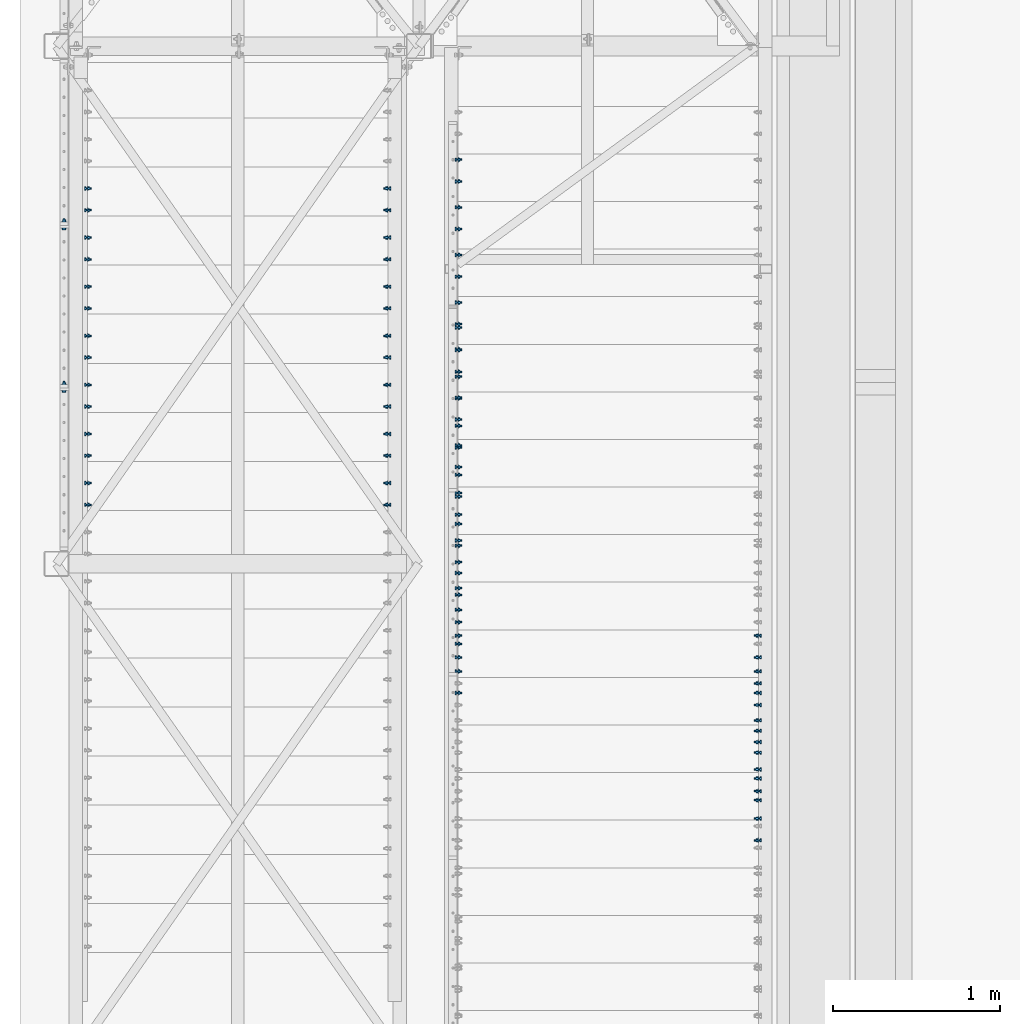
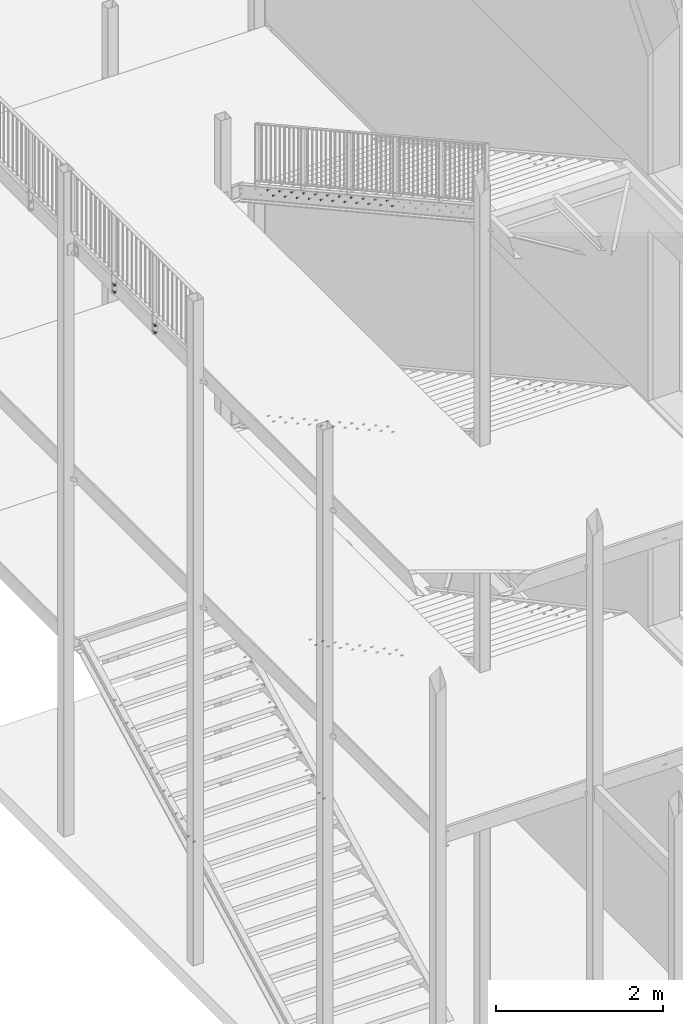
# One storey, part 70 of 78: 57 mechanical fasteners, 9 elements without a shape of their own.
"""IFC2X3 building model written with IfcOpenShell, lengths in millimetres."""

from ifc_helpers import new_model, si_unit, frame, origin_with_axes, origin_2d_with_axis, place, context, subcontext, project, spatial, polyline, circle, outline, extrude, source, transform, mapped, material, type_object, element, aggregate, save


model = new_model("IFC2X3")

# Units and contexts
model_context = context("Model", 3, precision=1e-05, world=origin_with_axes())
body_context = subcontext(model_context, "Body", "Model", "MODEL_VIEW")
ifc_project = project(units=[si_unit("LENGTHUNIT", "METRE", prefix="MILLI"), si_unit("AREAUNIT", "SQUARE_METRE"), si_unit("VOLUMEUNIT", "CUBIC_METRE"), si_unit("MASSUNIT", "GRAM", prefix="KILO"), si_unit("TIMEUNIT", "SECOND"), si_unit("PLANEANGLEUNIT", "RADIAN"), si_unit("SOLIDANGLEUNIT", "STERADIAN"), si_unit("THERMODYNAMICTEMPERATUREUNIT", "DEGREE_CELSIUS"), si_unit("LUMINOUSINTENSITYUNIT", "LUMEN")], contexts=[model_context])

# Site, building, storey
site_placement = place(None, origin_with_axes())
site = spatial("IfcSite", under=ifc_project, at=site_placement, Name="Site", CompositionType="ELEMENT")
building_placement = place(site_placement, origin_with_axes())
building = spatial("IfcBuilding", under=site, at=building_placement, Name="Undefined", CompositionType="ELEMENT")
storey_placement = place(building_placement, origin_with_axes())
storey = spatial("IfcBuildingStorey", under=building, at=storey_placement, Name="Undefined", CompositionType="ELEMENT", Elevation=0.0)

# Assembly, mechanical fasteners
assembly_1_placement = place(storey_placement, origin_with_axes())
assembly_1 = element("IfcElementAssembly", 1, at=assembly_1_placement, inside=storey, Name="MAIN_COURANTE", AssemblyPlace="NOTDEFINED", PredefinedType="RIGID_FRAME")
ifc_material_1 = material(Name="INOX-A4")
mechanical_fastener_type = type_object("IfcMechanicalFastenerType", Name="Bolt assembly")
shared_shape_1 = source(origin_with_axes(), body_context, "Body", "SweptSolid", [
    extrude(circle(Radius=7.0, at=origin_2d_with_axis()), frame((0.0, -7.4, 0.0), z_axis=(0.0, 1.0, 0.0), x_axis=(1.0, 0.0, 0.0)), (0.0, 0.0, 1.0), 15.0),
    extrude(circle(Radius=7.0, at=origin_2d_with_axis()), frame((0.0, 7.4, 0.0), z_axis=(0.0, 1.0, 0.0), x_axis=(1.0, 0.0, 0.0)), (0.0, 0.0, 1.0), 20.1),
    extrude(outline(polyline([(10.96965511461, 0.0), (5.484827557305, 9.50000000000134), (-5.484827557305, 9.50000000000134), (-10.96965511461, 0.0), (-5.484827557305, -9.50000000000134), (5.484827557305, -9.50000000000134), (10.96965511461, 0.0)])), frame((0.0, -18.7000000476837, 0.0), z_axis=(0.0, 1.0, 0.0), x_axis=(1.0, 0.0, 0.0)), (0.0, 0.0, 1.0), 8.0),
    extrude(circle(Radius=6.0, at=origin_2d_with_axis()), frame((0.0, -10.7000000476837, 0.0), z_axis=(0.0, 1.0, 0.0), x_axis=(1.0, 0.0, 0.0)), (0.0, 0.0, 1.0), 60.0),
    extrude(circle(Radius=15.5, at=origin_2d_with_axis()), frame((0.0, -10.7000000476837, 0.0), z_axis=(0.0, 1.0, 0.0), x_axis=(1.0, 0.0, 0.0)), (0.0, 0.0, 1.0), 3.2),
    extrude(circle(Radius=15.5, at=origin_2d_with_axis()), frame((0.0, 27.5, 0.0), z_axis=(0.0, 1.0, 0.0), x_axis=(1.0, 0.0, 0.0)), (0.0, 0.0, 1.0), 3.2),
    extrude(outline(polyline([(10.39230484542, 0.0), (5.19615242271, 9.00000000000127), (-5.19615242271, 9.00000000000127), (-10.39230484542, 0.0), (-5.19615242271, -9.00000000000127), (5.19615242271, -9.00000000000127), (10.39230484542, 0.0)])), frame((0.0, 30.7000000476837, 0.0), z_axis=(0.0, 1.0, 0.0), x_axis=(1.0, 0.0, 0.0)), (0.0, 0.0, 1.0), 10.8),
])
mechanical_fastener_1_placement = place(assembly_1_placement, frame((-35341.43, 8053.83333333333, 156585.04), z_axis=(0.0, 0.0, 1.0), x_axis=(1.0, 0.0, 0.0)))
mechanical_fastener_1 = element("IfcMechanicalFastener", 2, at=mechanical_fastener_1_placement, type_object=mechanical_fastener_type, material=ifc_material_1, Name="Bolt assembly", NominalDiameter=12.0, NominalLength=60.0, context=body_context, shape_type="MappedRepresentation", body=[
    mapped(shared_shape_1, transform((0.0, 0.0, -50.0))),
    mapped(shared_shape_1, transform((0.0, 0.0, 50.0))),
])
mechanical_fastener_2_placement = place(assembly_1_placement, frame((-35341.43, 9027.16666666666, 156585.04), z_axis=(0.0, 0.0, 1.0), x_axis=(1.0, 0.0, 0.0)))
mechanical_fastener_2 = element("IfcMechanicalFastener", 3, at=mechanical_fastener_2_placement, type_object=mechanical_fastener_type, material=ifc_material_1, Name="Bolt assembly", NominalDiameter=12.0, NominalLength=60.0, context=body_context, shape_type="MappedRepresentation", body=[
    mapped(shared_shape_1, transform((0.0, 0.0, -50.0))),
    mapped(shared_shape_1, transform((0.0, 0.0, 50.0))),
])
aggregate(assembly_1, [mechanical_fastener_1, mechanical_fastener_2])

assembly_2_placement = place(storey_placement, origin_with_axes())
assembly_2 = element("IfcElementAssembly", 4, at=assembly_2_placement, inside=storey, AssemblyPlace="NOTDEFINED", PredefinedType="RIGID_FRAME")
ifc_material_2 = material(Name="6.8")
shared_shape_2 = source(origin_with_axes(), body_context, "Body", "SweptSolid", [
    extrude(circle(Radius=6.0, at=origin_2d_with_axis()), frame((0.0, -9.00000002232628, 0.0), z_axis=(0.0, 1.0, 0.0), x_axis=(1.0, 0.0, 0.0)), (0.0, 0.0, 1.0), 9.1),
    extrude(outline(polyline([(10.96965511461, 0.0), (5.484827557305, 9.50000000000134), (-5.484827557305, 9.50000000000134), (-10.96965511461, 0.0), (-5.484827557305, -9.50000000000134), (5.484827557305, -9.50000000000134), (10.96965511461, 0.0)])), frame((0.0, -17.0000000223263, 0.0), z_axis=(0.0, 1.0, 0.0), x_axis=(1.0, 0.0, 0.0)), (0.0, 0.0, 1.0), 8.0),
    extrude(circle(Radius=6.0, at=origin_2d_with_axis()), frame((0.0, -9.00000002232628, 0.0), z_axis=(0.0, 1.0, 0.0), x_axis=(1.0, 0.0, 0.0)), (0.0, 0.0, 1.0), 35.0),
    extrude(circle(Radius=15.5, at=origin_2d_with_axis()), frame((0.0, 0.0, 0.0), z_axis=(0.0, 1.0, 0.0), x_axis=(1.0, 0.0, 0.0)), (0.0, 0.0, 1.0), 3.2),
    extrude(outline(polyline([(10.39230484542, 0.0), (5.19615242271, 9.00000000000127), (-5.19615242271, 9.00000000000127), (-10.39230484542, 0.0), (-5.19615242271, -9.00000000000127), (5.19615242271, -9.00000000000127), (10.39230484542, 0.0)])), frame((0.0, 3.20000004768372, 0.0), z_axis=(0.0, 1.0, 0.0), x_axis=(1.0, 0.0, 0.0)), (0.0, 0.0, 1.0), 10.8),
])
mechanical_fastener_3_placement = place(assembly_2_placement, frame((-31182.8599999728, 5722.99999993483, 155700.040000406), z_axis=(0.0, 0.0, -1.0), x_axis=(0.0, -1.0, 0.0)))
mechanical_fastener_3 = element("IfcMechanicalFastener", 5, at=mechanical_fastener_3_placement, type_object=mechanical_fastener_type, material=ifc_material_2, Name="Bolt assembly", NominalDiameter=12.0, NominalLength=35.0, context=body_context, shape_type="MappedRepresentation", body=[
    mapped(shared_shape_2, transform((0.0, 0.0, 0.0))),
    mapped(shared_shape_2, transform((130.0, 0.0, 0.0))),
])
mechanical_fastener_4_placement = place(assembly_2_placement, frame((-31182.8599999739, 6007.99999993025, 155542.540000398), z_axis=(0.0, 0.0, -1.0), x_axis=(0.0, -1.0, 0.0)))
mechanical_fastener_4 = element("IfcMechanicalFastener", 6, at=mechanical_fastener_4_placement, type_object=mechanical_fastener_type, material=ifc_material_2, Name="Bolt assembly", NominalDiameter=12.0, NominalLength=35.0, context=body_context, shape_type="MappedRepresentation", body=[
    mapped(shared_shape_2, transform((0.0, 0.0, 0.0))),
    mapped(shared_shape_2, transform((130.0, 0.0, 0.0))),
])
mechanical_fastener_5_placement = place(assembly_2_placement, frame((-31182.8599999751, 6292.99999992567, 155385.040000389), z_axis=(0.0, 0.0, -1.0), x_axis=(0.0, -1.0, 0.0)))
mechanical_fastener_5 = element("IfcMechanicalFastener", 7, at=mechanical_fastener_5_placement, type_object=mechanical_fastener_type, material=ifc_material_2, Name="Bolt assembly", NominalDiameter=12.0, NominalLength=35.0, context=body_context, shape_type="MappedRepresentation", body=[
    mapped(shared_shape_2, transform((0.0, 0.0, 0.0))),
    mapped(shared_shape_2, transform((130.0, 0.0, 0.0))),
])
mechanical_fastener_6_placement = place(assembly_2_placement, frame((-31182.8599999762, 6577.99999992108, 155227.540000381), z_axis=(0.0, 0.0, -1.0), x_axis=(0.0, -1.0, 0.0)))
mechanical_fastener_6 = element("IfcMechanicalFastener", 8, at=mechanical_fastener_6_placement, type_object=mechanical_fastener_type, material=ifc_material_2, Name="Bolt assembly", NominalDiameter=12.0, NominalLength=35.0, context=body_context, shape_type="MappedRepresentation", body=[
    mapped(shared_shape_2, transform((0.0, 0.0, 0.0))),
    mapped(shared_shape_2, transform((130.0, 0.0, 0.0))),
])
aggregate(assembly_2, [mechanical_fastener_3, mechanical_fastener_4, mechanical_fastener_5, mechanical_fastener_6])

assembly_3_placement = place(storey_placement, origin_with_axes())
assembly_3 = element("IfcElementAssembly", 9, at=assembly_3_placement, inside=storey, AssemblyPlace="NOTDEFINED", PredefinedType="RIGID_FRAME")
mechanical_fastener_7_placement = place(assembly_3_placement, frame((-32982.8599999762, 6577.99999992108, 155227.540000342), z_axis=(0.0, 0.0, 1.0), x_axis=(0.0, -1.0, 0.0)))
mechanical_fastener_7 = element("IfcMechanicalFastener", 10, at=mechanical_fastener_7_placement, type_object=mechanical_fastener_type, material=ifc_material_2, Name="Bolt assembly", NominalDiameter=12.0, NominalLength=35.0, context=body_context, shape_type="MappedRepresentation", body=[
    mapped(shared_shape_2, transform((0.0, 0.0, 0.0))),
    mapped(shared_shape_2, transform((130.0, 0.0, 0.0))),
])
mechanical_fastener_8_placement = place(assembly_3_placement, frame((-32982.8599999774, 6862.9999999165, 155070.040000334), z_axis=(0.0, 0.0, 1.0), x_axis=(0.0, -1.0, 0.0)))
mechanical_fastener_8 = element("IfcMechanicalFastener", 11, at=mechanical_fastener_8_placement, type_object=mechanical_fastener_type, material=ifc_material_2, Name="Bolt assembly", NominalDiameter=12.0, NominalLength=35.0, context=body_context, shape_type="MappedRepresentation", body=[
    mapped(shared_shape_2, transform((0.0, 0.0, 0.0))),
    mapped(shared_shape_2, transform((130.0, 0.0, 0.0))),
])
mechanical_fastener_9_placement = place(assembly_3_placement, frame((-32982.8599999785, 7147.99999991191, 154912.540000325), z_axis=(0.0, 0.0, 1.0), x_axis=(0.0, -1.0, 0.0)))
mechanical_fastener_9 = element("IfcMechanicalFastener", 12, at=mechanical_fastener_9_placement, type_object=mechanical_fastener_type, material=ifc_material_2, Name="Bolt assembly", NominalDiameter=12.0, NominalLength=35.0, context=body_context, shape_type="MappedRepresentation", body=[
    mapped(shared_shape_2, transform((0.0, 0.0, 0.0))),
    mapped(shared_shape_2, transform((130.0, 0.0, 0.0))),
])
mechanical_fastener_10_placement = place(assembly_3_placement, frame((-32982.8599999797, 7432.99999990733, 154755.040000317), z_axis=(0.0, 0.0, 1.0), x_axis=(0.0, -1.0, 0.0)))
mechanical_fastener_10 = element("IfcMechanicalFastener", 13, at=mechanical_fastener_10_placement, type_object=mechanical_fastener_type, material=ifc_material_2, Name="Bolt assembly", NominalDiameter=12.0, NominalLength=35.0, context=body_context, shape_type="MappedRepresentation", body=[
    mapped(shared_shape_2, transform((0.0, 0.0, 0.0))),
    mapped(shared_shape_2, transform((130.0, 0.0, 0.0))),
])
mechanical_fastener_11_placement = place(assembly_3_placement, frame((-32982.8599999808, 7717.99999990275, 154597.540000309), z_axis=(0.0, 0.0, 1.0), x_axis=(0.0, -1.0, 0.0)))
mechanical_fastener_11 = element("IfcMechanicalFastener", 14, at=mechanical_fastener_11_placement, type_object=mechanical_fastener_type, material=ifc_material_2, Name="Bolt assembly", NominalDiameter=12.0, NominalLength=35.0, context=body_context, shape_type="MappedRepresentation", body=[
    mapped(shared_shape_2, transform((0.0, 0.0, 0.0))),
    mapped(shared_shape_2, transform((130.0, 0.0, 0.0))),
])
mechanical_fastener_12_placement = place(assembly_3_placement, frame((-32982.859999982, 8002.99999989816, 154440.0400003), z_axis=(0.0, 0.0, 1.0), x_axis=(0.0, -1.0, 0.0)))
mechanical_fastener_12 = element("IfcMechanicalFastener", 15, at=mechanical_fastener_12_placement, type_object=mechanical_fastener_type, material=ifc_material_2, Name="Bolt assembly", NominalDiameter=12.0, NominalLength=35.0, context=body_context, shape_type="MappedRepresentation", body=[
    mapped(shared_shape_2, transform((0.0, 0.0, 0.0))),
    mapped(shared_shape_2, transform((130.0, 0.0, 0.0))),
])
mechanical_fastener_13_placement = place(assembly_3_placement, frame((-32982.8599999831, 8287.99999989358, 154282.540000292), z_axis=(0.0, 0.0, 1.0), x_axis=(0.0, -1.0, 0.0)))
mechanical_fastener_13 = element("IfcMechanicalFastener", 16, at=mechanical_fastener_13_placement, type_object=mechanical_fastener_type, material=ifc_material_2, Name="Bolt assembly", NominalDiameter=12.0, NominalLength=35.0, context=body_context, shape_type="MappedRepresentation", body=[
    mapped(shared_shape_2, transform((0.0, 0.0, 0.0))),
    mapped(shared_shape_2, transform((130.0, 0.0, 0.0))),
])
mechanical_fastener_14_placement = place(assembly_3_placement, frame((-32982.8599999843, 8572.99999988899, 154125.040000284), z_axis=(0.0, 0.0, 1.0), x_axis=(0.0, -1.0, 0.0)))
mechanical_fastener_14 = element("IfcMechanicalFastener", 17, at=mechanical_fastener_14_placement, type_object=mechanical_fastener_type, material=ifc_material_2, Name="Bolt assembly", NominalDiameter=12.0, NominalLength=35.0, context=body_context, shape_type="MappedRepresentation", body=[
    mapped(shared_shape_2, transform((0.0, 0.0, 0.0))),
    mapped(shared_shape_2, transform((130.0, 0.0, 0.0))),
])
mechanical_fastener_15_placement = place(assembly_3_placement, frame((-32982.8599999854, 8857.99999988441, 153967.540000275), z_axis=(0.0, 0.0, 1.0), x_axis=(0.0, -1.0, 0.0)))
mechanical_fastener_15 = element("IfcMechanicalFastener", 18, at=mechanical_fastener_15_placement, type_object=mechanical_fastener_type, material=ifc_material_2, Name="Bolt assembly", NominalDiameter=12.0, NominalLength=35.0, context=body_context, shape_type="MappedRepresentation", body=[
    mapped(shared_shape_2, transform((0.0, 0.0, 0.0))),
    mapped(shared_shape_2, transform((130.0, 0.0, 0.0))),
])
mechanical_fastener_16_placement = place(assembly_3_placement, frame((-32982.8599999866, 9142.99999987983, 153810.040000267), z_axis=(0.0, 0.0, 1.0), x_axis=(0.0, -1.0, 0.0)))
mechanical_fastener_16 = element("IfcMechanicalFastener", 19, at=mechanical_fastener_16_placement, type_object=mechanical_fastener_type, material=ifc_material_2, Name="Bolt assembly", NominalDiameter=12.0, NominalLength=35.0, context=body_context, shape_type="MappedRepresentation", body=[
    mapped(shared_shape_2, transform((0.0, 0.0, 0.0))),
    mapped(shared_shape_2, transform((130.0, 0.0, 0.0))),
])
mechanical_fastener_17_placement = place(assembly_3_placement, frame((-32982.8599999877, 9427.99999987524, 153652.540000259), z_axis=(0.0, 0.0, 1.0), x_axis=(0.0, -1.0, 0.0)))
mechanical_fastener_17 = element("IfcMechanicalFastener", 20, at=mechanical_fastener_17_placement, type_object=mechanical_fastener_type, material=ifc_material_2, Name="Bolt assembly", NominalDiameter=12.0, NominalLength=35.0, context=body_context, shape_type="MappedRepresentation", body=[
    mapped(shared_shape_2, transform((0.0, 0.0, 0.0))),
    mapped(shared_shape_2, transform((130.0, 0.0, 0.0))),
])
aggregate(assembly_3, [mechanical_fastener_7, mechanical_fastener_8, mechanical_fastener_9, mechanical_fastener_10, mechanical_fastener_11, mechanical_fastener_12, mechanical_fastener_13, mechanical_fastener_14, mechanical_fastener_15, mechanical_fastener_16, mechanical_fastener_17])

assembly_4_placement = place(storey_placement, origin_with_axes())
assembly_4 = element("IfcElementAssembly", 21, at=assembly_4_placement, inside=storey, AssemblyPlace="NOTDEFINED", PredefinedType="RIGID_FRAME")
mechanical_fastener_18_placement = place(assembly_4_placement, frame((-31182.8599999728, 5722.99999993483, 159000.040000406), z_axis=(0.0, 0.0, -1.0), x_axis=(0.0, -1.0, 0.0)))
mechanical_fastener_18 = element("IfcMechanicalFastener", 22, at=mechanical_fastener_18_placement, type_object=mechanical_fastener_type, material=ifc_material_2, Name="Bolt assembly", NominalDiameter=12.0, NominalLength=35.0, context=body_context, shape_type="MappedRepresentation", body=[
    mapped(shared_shape_2, transform((0.0, 0.0, 0.0))),
    mapped(shared_shape_2, transform((130.0, 0.0, 0.0))),
])
mechanical_fastener_19_placement = place(assembly_4_placement, frame((-31182.8599999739, 6007.99999993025, 158842.540000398), z_axis=(0.0, 0.0, -1.0), x_axis=(0.0, -1.0, 0.0)))
mechanical_fastener_19 = element("IfcMechanicalFastener", 23, at=mechanical_fastener_19_placement, type_object=mechanical_fastener_type, material=ifc_material_2, Name="Bolt assembly", NominalDiameter=12.0, NominalLength=35.0, context=body_context, shape_type="MappedRepresentation", body=[
    mapped(shared_shape_2, transform((0.0, 0.0, 0.0))),
    mapped(shared_shape_2, transform((130.0, 0.0, 0.0))),
])
mechanical_fastener_20_placement = place(assembly_4_placement, frame((-31182.8599999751, 6292.99999992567, 158685.040000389), z_axis=(0.0, 0.0, -1.0), x_axis=(0.0, -1.0, 0.0)))
mechanical_fastener_20 = element("IfcMechanicalFastener", 24, at=mechanical_fastener_20_placement, type_object=mechanical_fastener_type, material=ifc_material_2, Name="Bolt assembly", NominalDiameter=12.0, NominalLength=35.0, context=body_context, shape_type="MappedRepresentation", body=[
    mapped(shared_shape_2, transform((0.0, 0.0, 0.0))),
    mapped(shared_shape_2, transform((130.0, 0.0, 0.0))),
])
aggregate(assembly_4, [mechanical_fastener_18, mechanical_fastener_19, mechanical_fastener_20])

assembly_5_placement = place(storey_placement, origin_with_axes())
assembly_5 = element("IfcElementAssembly", 25, at=assembly_5_placement, inside=storey, AssemblyPlace="NOTDEFINED", PredefinedType="RIGID_FRAME")
mechanical_fastener_21_placement = place(assembly_5_placement, frame((-32982.8599999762, 6577.99999992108, 158527.540000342), z_axis=(0.0, 0.0, 1.0), x_axis=(0.0, -1.0, 0.0)))
mechanical_fastener_21 = element("IfcMechanicalFastener", 26, at=mechanical_fastener_21_placement, type_object=mechanical_fastener_type, material=ifc_material_2, Name="Bolt assembly", NominalDiameter=12.0, NominalLength=35.0, context=body_context, shape_type="MappedRepresentation", body=[
    mapped(shared_shape_2, transform((0.0, 0.0, 0.0))),
    mapped(shared_shape_2, transform((130.0, 0.0, 0.0))),
])
mechanical_fastener_22_placement = place(assembly_5_placement, frame((-32982.8599999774, 6862.9999999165, 158370.040000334), z_axis=(0.0, 0.0, 1.0), x_axis=(0.0, -1.0, 0.0)))
mechanical_fastener_22 = element("IfcMechanicalFastener", 27, at=mechanical_fastener_22_placement, type_object=mechanical_fastener_type, material=ifc_material_2, Name="Bolt assembly", NominalDiameter=12.0, NominalLength=35.0, context=body_context, shape_type="MappedRepresentation", body=[
    mapped(shared_shape_2, transform((0.0, 0.0, 0.0))),
    mapped(shared_shape_2, transform((130.0, 0.0, 0.0))),
])
mechanical_fastener_23_placement = place(assembly_5_placement, frame((-32982.8599999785, 7147.99999991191, 158212.540000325), z_axis=(0.0, 0.0, 1.0), x_axis=(0.0, -1.0, 0.0)))
mechanical_fastener_23 = element("IfcMechanicalFastener", 28, at=mechanical_fastener_23_placement, type_object=mechanical_fastener_type, material=ifc_material_2, Name="Bolt assembly", NominalDiameter=12.0, NominalLength=35.0, context=body_context, shape_type="MappedRepresentation", body=[
    mapped(shared_shape_2, transform((0.0, 0.0, 0.0))),
    mapped(shared_shape_2, transform((130.0, 0.0, 0.0))),
])
mechanical_fastener_24_placement = place(assembly_5_placement, frame((-32982.8599999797, 7432.99999990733, 158055.040000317), z_axis=(0.0, 0.0, 1.0), x_axis=(0.0, -1.0, 0.0)))
mechanical_fastener_24 = element("IfcMechanicalFastener", 29, at=mechanical_fastener_24_placement, type_object=mechanical_fastener_type, material=ifc_material_2, Name="Bolt assembly", NominalDiameter=12.0, NominalLength=35.0, context=body_context, shape_type="MappedRepresentation", body=[
    mapped(shared_shape_2, transform((0.0, 0.0, 0.0))),
    mapped(shared_shape_2, transform((130.0, 0.0, 0.0))),
])
mechanical_fastener_25_placement = place(assembly_5_placement, frame((-32982.8599999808, 7717.99999990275, 157897.540000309), z_axis=(0.0, 0.0, 1.0), x_axis=(0.0, -1.0, 0.0)))
mechanical_fastener_25 = element("IfcMechanicalFastener", 30, at=mechanical_fastener_25_placement, type_object=mechanical_fastener_type, material=ifc_material_2, Name="Bolt assembly", NominalDiameter=12.0, NominalLength=35.0, context=body_context, shape_type="MappedRepresentation", body=[
    mapped(shared_shape_2, transform((0.0, 0.0, 0.0))),
    mapped(shared_shape_2, transform((130.0, 0.0, 0.0))),
])
mechanical_fastener_26_placement = place(assembly_5_placement, frame((-32982.859999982, 8002.99999989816, 157740.0400003), z_axis=(0.0, 0.0, 1.0), x_axis=(0.0, -1.0, 0.0)))
mechanical_fastener_26 = element("IfcMechanicalFastener", 31, at=mechanical_fastener_26_placement, type_object=mechanical_fastener_type, material=ifc_material_2, Name="Bolt assembly", NominalDiameter=12.0, NominalLength=35.0, context=body_context, shape_type="MappedRepresentation", body=[
    mapped(shared_shape_2, transform((0.0, 0.0, 0.0))),
    mapped(shared_shape_2, transform((130.0, 0.0, 0.0))),
])
mechanical_fastener_27_placement = place(assembly_5_placement, frame((-32982.8599999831, 8287.99999989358, 157582.540000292), z_axis=(0.0, 0.0, 1.0), x_axis=(0.0, -1.0, 0.0)))
mechanical_fastener_27 = element("IfcMechanicalFastener", 32, at=mechanical_fastener_27_placement, type_object=mechanical_fastener_type, material=ifc_material_2, Name="Bolt assembly", NominalDiameter=12.0, NominalLength=35.0, context=body_context, shape_type="MappedRepresentation", body=[
    mapped(shared_shape_2, transform((0.0, 0.0, 0.0))),
    mapped(shared_shape_2, transform((130.0, 0.0, 0.0))),
])
mechanical_fastener_28_placement = place(assembly_5_placement, frame((-32982.8599999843, 8572.99999988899, 157425.040000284), z_axis=(0.0, 0.0, 1.0), x_axis=(0.0, -1.0, 0.0)))
mechanical_fastener_28 = element("IfcMechanicalFastener", 33, at=mechanical_fastener_28_placement, type_object=mechanical_fastener_type, material=ifc_material_2, Name="Bolt assembly", NominalDiameter=12.0, NominalLength=35.0, context=body_context, shape_type="MappedRepresentation", body=[
    mapped(shared_shape_2, transform((0.0, 0.0, 0.0))),
    mapped(shared_shape_2, transform((130.0, 0.0, 0.0))),
])
mechanical_fastener_29_placement = place(assembly_5_placement, frame((-32982.8599999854, 8857.99999988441, 157267.540000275), z_axis=(0.0, 0.0, 1.0), x_axis=(0.0, -1.0, 0.0)))
mechanical_fastener_29 = element("IfcMechanicalFastener", 34, at=mechanical_fastener_29_placement, type_object=mechanical_fastener_type, material=ifc_material_2, Name="Bolt assembly", NominalDiameter=12.0, NominalLength=35.0, context=body_context, shape_type="MappedRepresentation", body=[
    mapped(shared_shape_2, transform((0.0, 0.0, 0.0))),
    mapped(shared_shape_2, transform((130.0, 0.0, 0.0))),
])
mechanical_fastener_30_placement = place(assembly_5_placement, frame((-32982.8599999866, 9142.99999987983, 157110.040000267), z_axis=(0.0, 0.0, 1.0), x_axis=(0.0, -1.0, 0.0)))
mechanical_fastener_30 = element("IfcMechanicalFastener", 35, at=mechanical_fastener_30_placement, type_object=mechanical_fastener_type, material=ifc_material_2, Name="Bolt assembly", NominalDiameter=12.0, NominalLength=35.0, context=body_context, shape_type="MappedRepresentation", body=[
    mapped(shared_shape_2, transform((0.0, 0.0, 0.0))),
    mapped(shared_shape_2, transform((130.0, 0.0, 0.0))),
])
mechanical_fastener_31_placement = place(assembly_5_placement, frame((-32982.8599999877, 9427.99999987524, 156952.540000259), z_axis=(0.0, 0.0, 1.0), x_axis=(0.0, -1.0, 0.0)))
mechanical_fastener_31 = element("IfcMechanicalFastener", 36, at=mechanical_fastener_31_placement, type_object=mechanical_fastener_type, material=ifc_material_2, Name="Bolt assembly", NominalDiameter=12.0, NominalLength=35.0, context=body_context, shape_type="MappedRepresentation", body=[
    mapped(shared_shape_2, transform((0.0, 0.0, 0.0))),
    mapped(shared_shape_2, transform((130.0, 0.0, 0.0))),
])
aggregate(assembly_5, [mechanical_fastener_21, mechanical_fastener_22, mechanical_fastener_23, mechanical_fastener_24, mechanical_fastener_25, mechanical_fastener_26, mechanical_fastener_27, mechanical_fastener_28, mechanical_fastener_29, mechanical_fastener_30, mechanical_fastener_31])

# Assembly, mechanical fastener
assembly_6_placement = place(storey_placement, origin_with_axes())
assembly_6 = element("IfcElementAssembly", 37, at=assembly_6_placement, inside=storey, AssemblyPlace="NOTDEFINED", PredefinedType="RIGID_FRAME")
mechanical_fastener_32_placement = place(assembly_6_placement, frame((-35201.4300000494, 9126.00000000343, 150386.039999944), z_axis=(0.0, 0.0, -1.0), x_axis=(0.0, 1.0, 0.0)))
mechanical_fastener_32 = element("IfcMechanicalFastener", 38, at=mechanical_fastener_32_placement, type_object=mechanical_fastener_type, material=ifc_material_2, Name="Bolt assembly", NominalDiameter=12.0, NominalLength=35.0, context=body_context, shape_type="MappedRepresentation", body=[
    mapped(shared_shape_2, transform((0.0, 0.0, 0.0))),
    mapped(shared_shape_2, transform((130.0, 0.0, 0.0))),
])

assembly_7_placement = place(storey_placement, origin_with_axes())
assembly_7 = element("IfcElementAssembly", 39, at=assembly_7_placement, inside=storey, AssemblyPlace="NOTDEFINED", PredefinedType="RIGID_FRAME")
mechanical_fastener_33_placement = place(assembly_7_placement, frame((-33401.430000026, 9126.00000000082, 150386.040000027), z_axis=(0.0, 0.0, 1.0), x_axis=(0.0, 1.0, 0.0)))
mechanical_fastener_33 = element("IfcMechanicalFastener", 40, at=mechanical_fastener_33_placement, type_object=mechanical_fastener_type, material=ifc_material_2, Name="Bolt assembly", NominalDiameter=12.0, NominalLength=35.0, context=body_context, shape_type="MappedRepresentation", body=[
    mapped(shared_shape_2, transform((0.0, 0.0, 0.0))),
    mapped(shared_shape_2, transform((130.0, 0.0, 0.0))),
])

# Mechanical fastener
mechanical_fastener_34_placement = place(assembly_6_placement, frame((-35201.4300000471, 8832.00000000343, 150233.039999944), z_axis=(0.0, 0.0, -1.0), x_axis=(0.0, 1.0, 0.0)))
mechanical_fastener_34 = element("IfcMechanicalFastener", 41, at=mechanical_fastener_34_placement, type_object=mechanical_fastener_type, material=ifc_material_2, Name="Bolt assembly", NominalDiameter=12.0, NominalLength=35.0, context=body_context, shape_type="MappedRepresentation", body=[
    mapped(shared_shape_2, transform((0.0, 0.0, 0.0))),
    mapped(shared_shape_2, transform((130.0, 0.0, 0.0))),
])

mechanical_fastener_35_placement = place(assembly_7_placement, frame((-33401.4300000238, 8832.00000000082, 150233.040000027), z_axis=(0.0, 0.0, 1.0), x_axis=(0.0, 1.0, 0.0)))
mechanical_fastener_35 = element("IfcMechanicalFastener", 42, at=mechanical_fastener_35_placement, type_object=mechanical_fastener_type, material=ifc_material_2, Name="Bolt assembly", NominalDiameter=12.0, NominalLength=35.0, context=body_context, shape_type="MappedRepresentation", body=[
    mapped(shared_shape_2, transform((0.0, 0.0, 0.0))),
    mapped(shared_shape_2, transform((130.0, 0.0, 0.0))),
])

mechanical_fastener_36_placement = place(assembly_6_placement, frame((-35201.4300000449, 8538.00000000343, 150080.039999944), z_axis=(0.0, 0.0, -1.0), x_axis=(0.0, 1.0, 0.0)))
mechanical_fastener_36 = element("IfcMechanicalFastener", 43, at=mechanical_fastener_36_placement, type_object=mechanical_fastener_type, material=ifc_material_2, Name="Bolt assembly", NominalDiameter=12.0, NominalLength=35.0, context=body_context, shape_type="MappedRepresentation", body=[
    mapped(shared_shape_2, transform((0.0, 0.0, 0.0))),
    mapped(shared_shape_2, transform((130.0, 0.0, 0.0))),
])

mechanical_fastener_37_placement = place(assembly_7_placement, frame((-33401.4300000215, 8538.00000000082, 150080.040000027), z_axis=(0.0, 0.0, 1.0), x_axis=(0.0, 1.0, 0.0)))
mechanical_fastener_37 = element("IfcMechanicalFastener", 44, at=mechanical_fastener_37_placement, type_object=mechanical_fastener_type, material=ifc_material_2, Name="Bolt assembly", NominalDiameter=12.0, NominalLength=35.0, context=body_context, shape_type="MappedRepresentation", body=[
    mapped(shared_shape_2, transform((0.0, 0.0, 0.0))),
    mapped(shared_shape_2, transform((130.0, 0.0, 0.0))),
])

mechanical_fastener_38_placement = place(assembly_6_placement, frame((-35201.4300000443, 8244.00000000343, 149927.039999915), z_axis=(0.0, 0.0, -1.0), x_axis=(0.0, 1.0, 0.0)))
mechanical_fastener_38 = element("IfcMechanicalFastener", 45, at=mechanical_fastener_38_placement, type_object=mechanical_fastener_type, material=ifc_material_2, Name="Bolt assembly", NominalDiameter=12.0, NominalLength=35.0, context=body_context, shape_type="MappedRepresentation", body=[
    mapped(shared_shape_2, transform((0.0, 0.0, 0.0))),
    mapped(shared_shape_2, transform((130.0, 0.0, 0.0))),
])

mechanical_fastener_39_placement = place(assembly_7_placement, frame((-33401.4300000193, 8244.00000000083, 149927.040000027), z_axis=(0.0, 0.0, 1.0), x_axis=(0.0, 1.0, 0.0)))
mechanical_fastener_39 = element("IfcMechanicalFastener", 46, at=mechanical_fastener_39_placement, type_object=mechanical_fastener_type, material=ifc_material_2, Name="Bolt assembly", NominalDiameter=12.0, NominalLength=35.0, context=body_context, shape_type="MappedRepresentation", body=[
    mapped(shared_shape_2, transform((0.0, 0.0, 0.0))),
    mapped(shared_shape_2, transform((130.0, 0.0, 0.0))),
])

mechanical_fastener_40_placement = place(assembly_6_placement, frame((-35201.4300000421, 7950.00000000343, 149774.039999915), z_axis=(0.0, 0.0, -1.0), x_axis=(0.0, 1.0, 0.0)))
mechanical_fastener_40 = element("IfcMechanicalFastener", 47, at=mechanical_fastener_40_placement, type_object=mechanical_fastener_type, material=ifc_material_2, Name="Bolt assembly", NominalDiameter=12.0, NominalLength=35.0, context=body_context, shape_type="MappedRepresentation", body=[
    mapped(shared_shape_2, transform((0.0, 0.0, 0.0))),
    mapped(shared_shape_2, transform((130.0, 0.0, 0.0))),
])

mechanical_fastener_41_placement = place(assembly_7_placement, frame((-33401.4300000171, 7950.00000000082, 149774.040000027), z_axis=(0.0, 0.0, 1.0), x_axis=(0.0, 1.0, 0.0)))
mechanical_fastener_41 = element("IfcMechanicalFastener", 48, at=mechanical_fastener_41_placement, type_object=mechanical_fastener_type, material=ifc_material_2, Name="Bolt assembly", NominalDiameter=12.0, NominalLength=35.0, context=body_context, shape_type="MappedRepresentation", body=[
    mapped(shared_shape_2, transform((0.0, 0.0, 0.0))),
    mapped(shared_shape_2, transform((130.0, 0.0, 0.0))),
])

mechanical_fastener_42_placement = place(assembly_6_placement, frame((-35201.4300000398, 7656.00000000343, 149621.039999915), z_axis=(0.0, 0.0, -1.0), x_axis=(0.0, 1.0, 0.0)))
mechanical_fastener_42 = element("IfcMechanicalFastener", 49, at=mechanical_fastener_42_placement, type_object=mechanical_fastener_type, material=ifc_material_2, Name="Bolt assembly", NominalDiameter=12.0, NominalLength=35.0, context=body_context, shape_type="MappedRepresentation", body=[
    mapped(shared_shape_2, transform((0.0, 0.0, 0.0))),
    mapped(shared_shape_2, transform((130.0, 0.0, 0.0))),
])

mechanical_fastener_43_placement = place(assembly_7_placement, frame((-33401.4300000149, 7656.00000000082, 149621.040000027), z_axis=(0.0, 0.0, 1.0), x_axis=(0.0, 1.0, 0.0)))
mechanical_fastener_43 = element("IfcMechanicalFastener", 50, at=mechanical_fastener_43_placement, type_object=mechanical_fastener_type, material=ifc_material_2, Name="Bolt assembly", NominalDiameter=12.0, NominalLength=35.0, context=body_context, shape_type="MappedRepresentation", body=[
    mapped(shared_shape_2, transform((0.0, 0.0, 0.0))),
    mapped(shared_shape_2, transform((130.0, 0.0, 0.0))),
])

mechanical_fastener_44_placement = place(assembly_6_placement, frame((-35201.4300000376, 7362.00000000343, 149468.039999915), z_axis=(0.0, 0.0, -1.0), x_axis=(0.0, 1.0, 0.0)))
mechanical_fastener_44 = element("IfcMechanicalFastener", 51, at=mechanical_fastener_44_placement, type_object=mechanical_fastener_type, material=ifc_material_2, Name="Bolt assembly", NominalDiameter=12.0, NominalLength=35.0, context=body_context, shape_type="MappedRepresentation", body=[
    mapped(shared_shape_2, transform((0.0, 0.0, 0.0))),
    mapped(shared_shape_2, transform((130.0, 0.0, 0.0))),
])

aggregate(assembly_6, [mechanical_fastener_32, mechanical_fastener_34, mechanical_fastener_36, mechanical_fastener_38, mechanical_fastener_40, mechanical_fastener_42, mechanical_fastener_44])

mechanical_fastener_45_placement = place(assembly_7_placement, frame((-33401.4300000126, 7362.00000000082, 149468.040000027), z_axis=(0.0, 0.0, 1.0), x_axis=(0.0, 1.0, 0.0)))
mechanical_fastener_45 = element("IfcMechanicalFastener", 52, at=mechanical_fastener_45_placement, type_object=mechanical_fastener_type, material=ifc_material_2, Name="Bolt assembly", NominalDiameter=12.0, NominalLength=35.0, context=body_context, shape_type="MappedRepresentation", body=[
    mapped(shared_shape_2, transform((0.0, 0.0, 0.0))),
    mapped(shared_shape_2, transform((130.0, 0.0, 0.0))),
])

aggregate(assembly_7, [mechanical_fastener_33, mechanical_fastener_35, mechanical_fastener_37, mechanical_fastener_39, mechanical_fastener_41, mechanical_fastener_43, mechanical_fastener_45])

# Assembly, mechanical fasteners
assembly_8_placement = place(storey_placement, origin_with_axes())
assembly_8 = element("IfcElementAssembly", 53, at=assembly_8_placement, inside=storey, AssemblyPlace="NOTDEFINED", PredefinedType="RIGID_FRAME")
mechanical_fastener_46_placement = place(assembly_8_placement, frame((-31182.8599999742, 5482.99999972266, 152562.540107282), z_axis=(0.0, 0.0, -1.0), x_axis=(0.0, -1.0, 0.0)))
mechanical_fastener_46 = element("IfcMechanicalFastener", 54, at=mechanical_fastener_46_placement, type_object=mechanical_fastener_type, material=ifc_material_2, Name="Bolt assembly", NominalDiameter=12.0, NominalLength=35.0, context=body_context, shape_type="MappedRepresentation", body=[
    mapped(shared_shape_2, transform((0.0, 0.0, 0.0))),
    mapped(shared_shape_2, transform((130.0, 0.0, 0.0))),
])
mechanical_fastener_47_placement = place(assembly_8_placement, frame((-31182.8599999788, 5776.99999973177, 152406.040107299), z_axis=(0.0, 0.0, -1.0), x_axis=(0.0, -1.0, 0.0)))
mechanical_fastener_47 = element("IfcMechanicalFastener", 55, at=mechanical_fastener_47_placement, type_object=mechanical_fastener_type, material=ifc_material_2, Name="Bolt assembly", NominalDiameter=12.0, NominalLength=35.0, context=body_context, shape_type="MappedRepresentation", body=[
    mapped(shared_shape_2, transform((0.0, 0.0, 0.0))),
    mapped(shared_shape_2, transform((130.0, 0.0, 0.0))),
])
mechanical_fastener_48_placement = place(assembly_8_placement, frame((-31182.8599999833, 6070.99999974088, 152249.540107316), z_axis=(0.0, 0.0, -1.0), x_axis=(0.0, -1.0, 0.0)))
mechanical_fastener_48 = element("IfcMechanicalFastener", 56, at=mechanical_fastener_48_placement, type_object=mechanical_fastener_type, material=ifc_material_2, Name="Bolt assembly", NominalDiameter=12.0, NominalLength=35.0, context=body_context, shape_type="MappedRepresentation", body=[
    mapped(shared_shape_2, transform((0.0, 0.0, 0.0))),
    mapped(shared_shape_2, transform((130.0, 0.0, 0.0))),
])
mechanical_fastener_49_placement = place(assembly_8_placement, frame((-31182.8599999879, 6364.99999974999, 152093.040107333), z_axis=(0.0, 0.0, -1.0), x_axis=(0.0, -1.0, 0.0)))
mechanical_fastener_49 = element("IfcMechanicalFastener", 57, at=mechanical_fastener_49_placement, type_object=mechanical_fastener_type, material=ifc_material_2, Name="Bolt assembly", NominalDiameter=12.0, NominalLength=35.0, context=body_context, shape_type="MappedRepresentation", body=[
    mapped(shared_shape_2, transform((0.0, 0.0, 0.0))),
    mapped(shared_shape_2, transform((130.0, 0.0, 0.0))),
])
aggregate(assembly_8, [mechanical_fastener_46, mechanical_fastener_47, mechanical_fastener_48, mechanical_fastener_49])

assembly_9_placement = place(storey_placement, origin_with_axes())
assembly_9 = element("IfcElementAssembly", 58, at=assembly_9_placement, inside=storey, AssemblyPlace="NOTDEFINED", PredefinedType="RIGID_FRAME")
mechanical_fastener_50_placement = place(assembly_9_placement, frame((-32982.8599999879, 6364.99999974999, 152093.040107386), z_axis=(0.0, 0.0, 1.0), x_axis=(0.0, -1.0, 0.0)))
mechanical_fastener_50 = element("IfcMechanicalFastener", 59, at=mechanical_fastener_50_placement, type_object=mechanical_fastener_type, material=ifc_material_2, Name="Bolt assembly", NominalDiameter=12.0, NominalLength=35.0, context=body_context, shape_type="MappedRepresentation", body=[
    mapped(shared_shape_2, transform((0.0, 0.0, 0.0))),
    mapped(shared_shape_2, transform((130.0, 0.0, 0.0))),
])
mechanical_fastener_51_placement = place(assembly_9_placement, frame((-32982.8599999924, 6658.99999975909, 151936.540107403), z_axis=(0.0, 0.0, 1.0), x_axis=(0.0, -1.0, 0.0)))
mechanical_fastener_51 = element("IfcMechanicalFastener", 60, at=mechanical_fastener_51_placement, type_object=mechanical_fastener_type, material=ifc_material_2, Name="Bolt assembly", NominalDiameter=12.0, NominalLength=35.0, context=body_context, shape_type="MappedRepresentation", body=[
    mapped(shared_shape_2, transform((0.0, 0.0, 0.0))),
    mapped(shared_shape_2, transform((130.0, 0.0, 0.0))),
])
mechanical_fastener_52_placement = place(assembly_9_placement, frame((-32982.859999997, 6952.9999997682, 151780.04010742), z_axis=(0.0, 0.0, 1.0), x_axis=(0.0, -1.0, 0.0)))
mechanical_fastener_52 = element("IfcMechanicalFastener", 61, at=mechanical_fastener_52_placement, type_object=mechanical_fastener_type, material=ifc_material_2, Name="Bolt assembly", NominalDiameter=12.0, NominalLength=35.0, context=body_context, shape_type="MappedRepresentation", body=[
    mapped(shared_shape_2, transform((0.0, 0.0, 0.0))),
    mapped(shared_shape_2, transform((130.0, 0.0, 0.0))),
])
mechanical_fastener_53_placement = place(assembly_9_placement, frame((-32982.8600000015, 7246.99999977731, 151623.540107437), z_axis=(0.0, 0.0, 1.0), x_axis=(0.0, -1.0, 0.0)))
mechanical_fastener_53 = element("IfcMechanicalFastener", 62, at=mechanical_fastener_53_placement, type_object=mechanical_fastener_type, material=ifc_material_2, Name="Bolt assembly", NominalDiameter=12.0, NominalLength=35.0, context=body_context, shape_type="MappedRepresentation", body=[
    mapped(shared_shape_2, transform((0.0, 0.0, 0.0))),
    mapped(shared_shape_2, transform((130.0, 0.0, 0.0))),
])
mechanical_fastener_54_placement = place(assembly_9_placement, frame((-32982.8600000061, 7540.99999978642, 151467.040107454), z_axis=(0.0, 0.0, 1.0), x_axis=(0.0, -1.0, 0.0)))
mechanical_fastener_54 = element("IfcMechanicalFastener", 63, at=mechanical_fastener_54_placement, type_object=mechanical_fastener_type, material=ifc_material_2, Name="Bolt assembly", NominalDiameter=12.0, NominalLength=35.0, context=body_context, shape_type="MappedRepresentation", body=[
    mapped(shared_shape_2, transform((0.0, 0.0, 0.0))),
    mapped(shared_shape_2, transform((130.0, 0.0, 0.0))),
])
mechanical_fastener_55_placement = place(assembly_9_placement, frame((-32982.8600000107, 7834.99999979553, 151310.540107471), z_axis=(0.0, 0.0, 1.0), x_axis=(0.0, -1.0, 0.0)))
mechanical_fastener_55 = element("IfcMechanicalFastener", 64, at=mechanical_fastener_55_placement, type_object=mechanical_fastener_type, material=ifc_material_2, Name="Bolt assembly", NominalDiameter=12.0, NominalLength=35.0, context=body_context, shape_type="MappedRepresentation", body=[
    mapped(shared_shape_2, transform((0.0, 0.0, 0.0))),
    mapped(shared_shape_2, transform((130.0, 0.0, 0.0))),
])
mechanical_fastener_56_placement = place(assembly_9_placement, frame((-32982.8600000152, 8128.99999980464, 151154.040107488), z_axis=(0.0, 0.0, 1.0), x_axis=(0.0, -1.0, 0.0)))
mechanical_fastener_56 = element("IfcMechanicalFastener", 65, at=mechanical_fastener_56_placement, type_object=mechanical_fastener_type, material=ifc_material_2, Name="Bolt assembly", NominalDiameter=12.0, NominalLength=35.0, context=body_context, shape_type="MappedRepresentation", body=[
    mapped(shared_shape_2, transform((0.0, 0.0, 0.0))),
    mapped(shared_shape_2, transform((130.0, 0.0, 0.0))),
])
mechanical_fastener_57_placement = place(assembly_9_placement, frame((-32982.8600000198, 8422.99999981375, 150997.540107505), z_axis=(0.0, 0.0, 1.0), x_axis=(0.0, -1.0, 0.0)))
mechanical_fastener_57 = element("IfcMechanicalFastener", 66, at=mechanical_fastener_57_placement, type_object=mechanical_fastener_type, material=ifc_material_2, Name="Bolt assembly", NominalDiameter=12.0, NominalLength=35.0, context=body_context, shape_type="MappedRepresentation", body=[
    mapped(shared_shape_2, transform((0.0, 0.0, 0.0))),
    mapped(shared_shape_2, transform((130.0, 0.0, 0.0))),
])
aggregate(assembly_9, [mechanical_fastener_50, mechanical_fastener_51, mechanical_fastener_52, mechanical_fastener_53, mechanical_fastener_54, mechanical_fastener_55, mechanical_fastener_56, mechanical_fastener_57])

save(model, "model.ifc")
